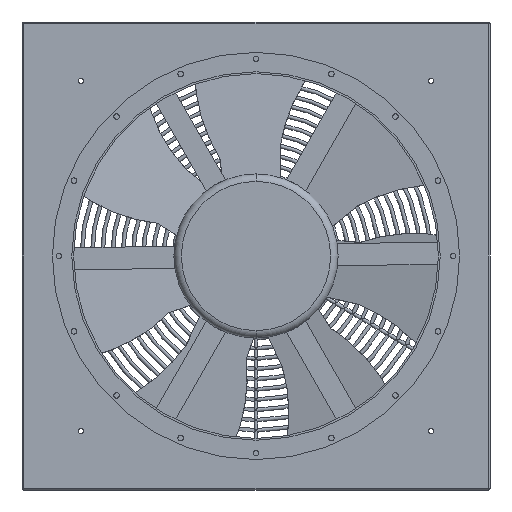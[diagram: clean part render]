
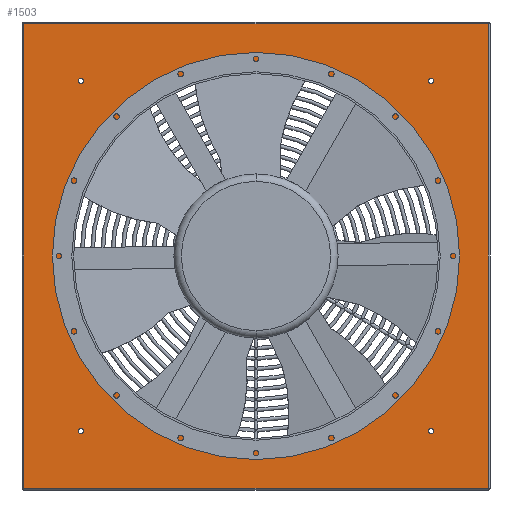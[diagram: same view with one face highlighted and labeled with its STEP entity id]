
A CAD part, front view. The second image highlights one B-rep face of the part: STEP entity #1503.
In plain terms, the highlighted planar face has unit normal (0, -1, 0).
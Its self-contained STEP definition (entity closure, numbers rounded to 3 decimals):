
#1503=ADVANCED_FACE('',(#3068,#3069,#3070,#3071,#3072,#3073),#3074,.F.);
#3068=FACE_OUTER_BOUND('',#4642,.T.);
#3069=FACE_BOUND('',#4643,.T.);
#3070=FACE_BOUND('',#4644,.T.);
#3071=FACE_BOUND('',#4645,.T.);
#3072=FACE_BOUND('',#4646,.T.);
#3073=FACE_BOUND('',#4647,.T.);
#3074=PLANE('',#4648);
#4642=EDGE_LOOP('',(#9750,#9751,#9752,#9753));
#4643=EDGE_LOOP('',(#9754,#9755));
#4644=EDGE_LOOP('',(#9756,#9757));
#4645=EDGE_LOOP('',(#9758,#9759));
#4646=EDGE_LOOP('',(#9760,#9761));
#4647=EDGE_LOOP('',(#9762,#9763));
#4648=AXIS2_PLACEMENT_3D('',#9764,#9765,#9766);
#9750=ORIENTED_EDGE('',*,*,#11854,.F.);
#9751=ORIENTED_EDGE('',*,*,#11860,.T.);
#9752=ORIENTED_EDGE('',*,*,#11866,.T.);
#9753=ORIENTED_EDGE('',*,*,#11894,.F.);
#9754=ORIENTED_EDGE('',*,*,#11827,.T.);
#9755=ORIENTED_EDGE('',*,*,#10597,.T.);
#9756=ORIENTED_EDGE('',*,*,#11838,.T.);
#9757=ORIENTED_EDGE('',*,*,#10582,.T.);
#9758=ORIENTED_EDGE('',*,*,#11841,.T.);
#9759=ORIENTED_EDGE('',*,*,#10577,.T.);
#9760=ORIENTED_EDGE('',*,*,#11844,.T.);
#9761=ORIENTED_EDGE('',*,*,#10572,.T.);
#9762=ORIENTED_EDGE('',*,*,#11847,.T.);
#9763=ORIENTED_EDGE('',*,*,#10567,.T.);
#9764=CARTESIAN_POINT('',(0.0,-493.5,0.0));
#9765=DIRECTION('',(0.0,1.0,0.0));
#9766=DIRECTION('',(1.0,0.0,-0.0));
#10567=EDGE_CURVE('',#13179,#13183,#13185,.T.);
#10572=EDGE_CURVE('',#13188,#13192,#13194,.T.);
#10577=EDGE_CURVE('',#13197,#13201,#13203,.T.);
#10582=EDGE_CURVE('',#13206,#13210,#13212,.T.);
#10597=EDGE_CURVE('',#13233,#13237,#13239,.T.);
#11827=EDGE_CURVE('',#13237,#13233,#14751,.T.);
#11838=EDGE_CURVE('',#13210,#13206,#14762,.T.);
#11841=EDGE_CURVE('',#13201,#13197,#14765,.T.);
#11844=EDGE_CURVE('',#13192,#13188,#14768,.T.);
#11847=EDGE_CURVE('',#13183,#13179,#14771,.T.);
#11854=EDGE_CURVE('',#14775,#14781,#14782,.T.);
#11860=EDGE_CURVE('',#14775,#14789,#14791,.T.);
#11866=EDGE_CURVE('',#14789,#14793,#14800,.T.);
#11894=EDGE_CURVE('',#14781,#14793,#14841,.T.);
#13179=VERTEX_POINT('',#28391);
#13183=VERTEX_POINT('',#28396);
#13185=CIRCLE('',#28399,7.0);
#13188=VERTEX_POINT('',#28402);
#13192=VERTEX_POINT('',#28407);
#13194=CIRCLE('',#28410,7.0);
#13197=VERTEX_POINT('',#28413);
#13201=VERTEX_POINT('',#28418);
#13203=CIRCLE('',#28421,7.0);
#13206=VERTEX_POINT('',#28424);
#13210=VERTEX_POINT('',#28429);
#13212=CIRCLE('',#28432,7.0);
#13233=VERTEX_POINT('',#28457);
#13237=VERTEX_POINT('',#28462);
#13239=CIRCLE('',#28465,500.0);
#14751=CIRCLE('',#43042,500.0);
#14762=CIRCLE('',#43053,7.0);
#14765=CIRCLE('',#43056,7.0);
#14768=CIRCLE('',#43059,7.0);
#14771=CIRCLE('',#43062,7.0);
#14775=VERTEX_POINT('',#43066);
#14781=VERTEX_POINT('',#43072);
#14782=LINE('',#43073,#43074);
#14789=VERTEX_POINT('',#43083);
#14791=LINE('',#43085,#43086);
#14793=VERTEX_POINT('',#43088);
#14800=LINE('',#43095,#43096);
#14841=LINE('',#43145,#43146);
#28391=CARTESIAN_POINT('',(-468.0,-493.5,-475.0));
#28396=CARTESIAN_POINT('',(-482.0,-493.5,-475.0));
#28399=AXIS2_PLACEMENT_3D('',#44217,#44218,#44219);
#28402=CARTESIAN_POINT('',(482.0,-493.5,-475.0));
#28407=CARTESIAN_POINT('',(468.0,-493.5,-475.0));
#28410=AXIS2_PLACEMENT_3D('',#44225,#44226,#44227);
#28413=CARTESIAN_POINT('',(482.0,-493.5,475.0));
#28418=CARTESIAN_POINT('',(468.0,-493.5,475.0));
#28421=AXIS2_PLACEMENT_3D('',#44233,#44234,#44235);
#28424=CARTESIAN_POINT('',(-468.0,-493.5,475.0));
#28429=CARTESIAN_POINT('',(-482.0,-493.5,475.0));
#28432=AXIS2_PLACEMENT_3D('',#44241,#44242,#44243);
#28457=CARTESIAN_POINT('',(500.0,-493.5,0.));
#28462=CARTESIAN_POINT('',(-500.0,-493.5,0.));
#28465=AXIS2_PLACEMENT_3D('',#44265,#44266,#44267);
#43042=AXIS2_PLACEMENT_3D('',#45510,#45511,#45512);
#43053=AXIS2_PLACEMENT_3D('',#45525,#45526,#45527);
#43056=AXIS2_PLACEMENT_3D('',#45531,#45532,#45533);
#43059=AXIS2_PLACEMENT_3D('',#45537,#45538,#45539);
#43062=AXIS2_PLACEMENT_3D('',#45543,#45544,#45545);
#43066=CARTESIAN_POINT('',(630.0,-493.5,630.0));
#43072=CARTESIAN_POINT('',(630.0,-493.5,-630.0));
#43073=CARTESIAN_POINT('',(630.0,-493.5,0.0));
#43074=VECTOR('',#45558,1.0);
#43083=CARTESIAN_POINT('',(-630.0,-493.5,630.0));
#43085=CARTESIAN_POINT('',(0.0,-493.5,630.0));
#43086=VECTOR('',#45567,1.0);
#43088=CARTESIAN_POINT('',(-630.0,-493.5,-630.0));
#43095=CARTESIAN_POINT('',(-630.0,-493.5,0.0));
#43096=VECTOR('',#45577,1.0);
#43145=CARTESIAN_POINT('',(0.,-493.5,-630.0));
#43146=VECTOR('',#45622,1.0);
#44217=CARTESIAN_POINT('',(-475.0,-493.5,-475.0));
#44218=DIRECTION('',(-0.0,1.0,0.0));
#44219=DIRECTION('',(1.0,0.0,0.0));
#44225=CARTESIAN_POINT('',(475.0,-493.5,-475.0));
#44226=DIRECTION('',(-0.0,1.0,0.0));
#44227=DIRECTION('',(1.0,0.0,0.0));
#44233=CARTESIAN_POINT('',(475.0,-493.5,475.0));
#44234=DIRECTION('',(-0.0,1.0,0.0));
#44235=DIRECTION('',(1.0,0.0,0.0));
#44241=CARTESIAN_POINT('',(-475.0,-493.5,475.0));
#44242=DIRECTION('',(-0.0,1.0,0.0));
#44243=DIRECTION('',(1.0,0.0,0.0));
#44265=CARTESIAN_POINT('',(0.0,-493.5,0.0));
#44266=DIRECTION('',(-0.0,1.0,0.0));
#44267=DIRECTION('',(1.0,0.0,0.0));
#45510=CARTESIAN_POINT('',(0.0,-493.5,0.0));
#45511=DIRECTION('',(-0.0,1.0,0.0));
#45512=DIRECTION('',(1.0,0.0,0.0));
#45525=CARTESIAN_POINT('',(-475.0,-493.5,475.0));
#45526=DIRECTION('',(-0.0,1.0,0.0));
#45527=DIRECTION('',(1.0,0.0,0.0));
#45531=CARTESIAN_POINT('',(475.0,-493.5,475.0));
#45532=DIRECTION('',(-0.0,1.0,0.0));
#45533=DIRECTION('',(1.0,0.0,0.0));
#45537=CARTESIAN_POINT('',(475.0,-493.5,-475.0));
#45538=DIRECTION('',(-0.0,1.0,0.0));
#45539=DIRECTION('',(1.0,0.0,0.0));
#45543=CARTESIAN_POINT('',(-475.0,-493.5,-475.0));
#45544=DIRECTION('',(-0.0,1.0,0.0));
#45545=DIRECTION('',(1.0,0.0,0.0));
#45558=DIRECTION('',(0.0,0.0,-1.0));
#45567=DIRECTION('',(-1.0,0.,0.));
#45577=DIRECTION('',(0.0,0.0,-1.0));
#45622=DIRECTION('',(-1.0,0.,0.));
